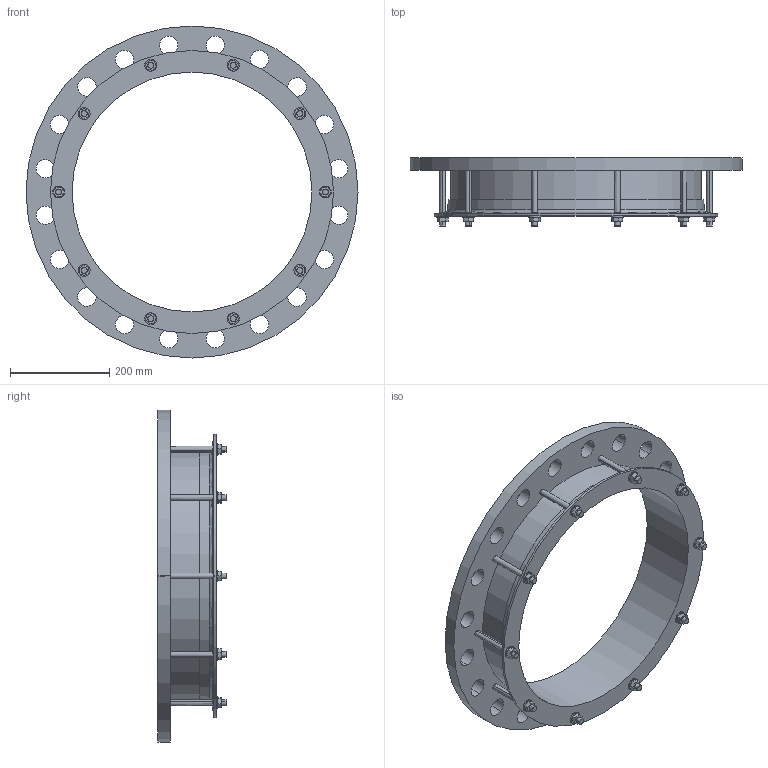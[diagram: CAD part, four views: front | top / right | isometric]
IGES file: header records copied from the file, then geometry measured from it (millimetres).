
Start section:  PTC IGES file: 480x450pn25.igs
Global section: file name: 480x450pn25.igs; native system: Creo Parametric by PTC Inc.; preprocessor: 2016130; author: mfairey; organization: Unknown; date: 20190404.113635; units: millimetre
Bounding box: 670 x 137.45 x 670 mm (x, y, z)
Surface area: 873248.3 mm2 (no closed solid volume)
Topology: 0 solids, 0 shells, 208 faces, 1096 edges, 1096 vertices
Faces by surface type: revolution 114, bspline 94
